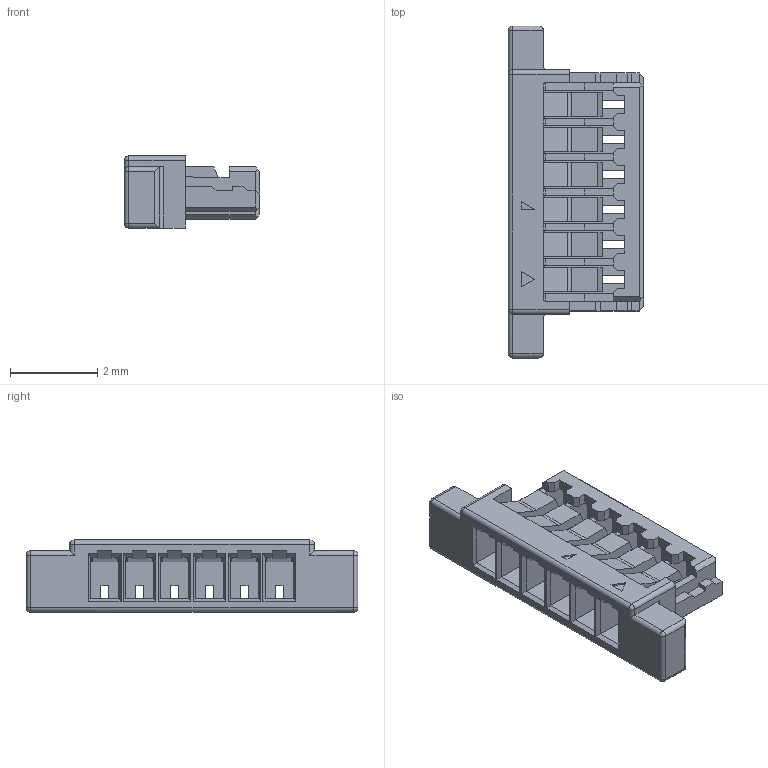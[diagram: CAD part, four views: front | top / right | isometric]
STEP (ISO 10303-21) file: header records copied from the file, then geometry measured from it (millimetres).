
FILE_DESCRIPTION((''),'2;1');
FILE_NAME('ASM0004_ASM','2020-06-19T',('k41758'),(''),'PRO/ENGINEER BY PARAMETRIC TECHNOLOGY CORPORATION, 2009360','PRO/ENGINEER BY PARAMETRIC TECHNOLOGY CORPORATION, 2009360','');
FILE_SCHEMA(('CONFIG_CONTROL_DESIGN'));
Length unit declared in the file: millimetre
Products named in the file (1): ASM0004_ASM
Bounding box: 3.1 x 7.6 x 1.65 mm (x, y, z)
Volume: 13.4 mm3; surface area: 121.8 mm2
Topology: 1 solids, 1 shells, 360 faces, 1009 edges, 629 vertices
Faces by surface type: plane 316, cylinder 38, sphere 6
Entity records: 11400 total; most frequent: CARTESIAN_POINT 2161, ORIENTED_EDGE 2006, DIRECTION 1755, EDGE_CURVE 1003, VECTOR 927, LINE 927, VERTEX_POINT 629, AXIS2_PLACEMENT_3D 414
